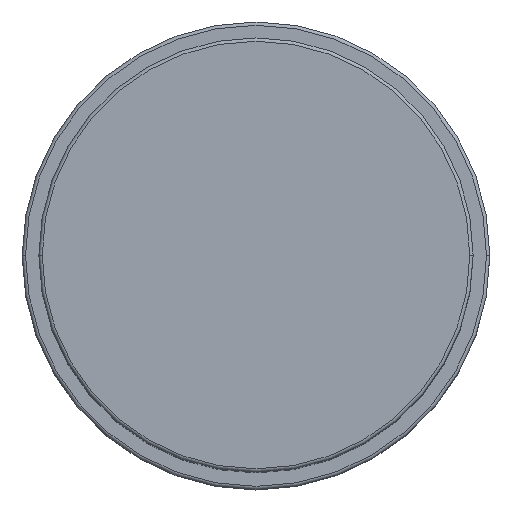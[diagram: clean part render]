
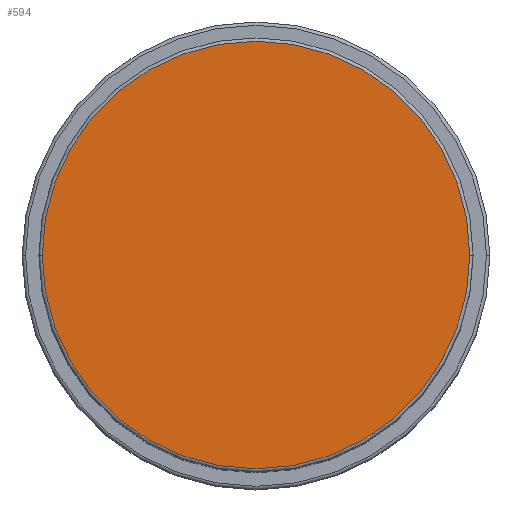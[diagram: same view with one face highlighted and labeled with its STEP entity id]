
A CAD part, top view. The second image highlights one B-rep face of the part: STEP entity #594.
In plain terms, the highlighted planar face has unit normal (0, 0, 1).
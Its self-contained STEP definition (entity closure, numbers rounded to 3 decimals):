
#180 = CARTESIAN_POINT ( 'NONE',  ( 0., 0., 97. ) ) ;
#218 = CARTESIAN_POINT ( 'NONE',  ( 0., 0., 97. ) ) ;
#279 = EDGE_CURVE ( 'NONE', #1268, #1294, #923, .T. ) ;
#319 = CARTESIAN_POINT ( 'NONE',  ( 0., 0., 97. ) ) ;
#424 = AXIS2_PLACEMENT_3D ( 'NONE', #218, #1105, #1114 ) ;
#445 = DIRECTION ( 'NONE',  ( 0., 0., 1. ) ) ;
#447 = DIRECTION ( 'NONE',  ( 1., 0., 0. ) ) ;
#553 = PLANE ( 'NONE',  #838 ) ;
#594 = ADVANCED_FACE ( 'NONE', ( #914 ), #553, .T. ) ;
#838 = AXIS2_PLACEMENT_3D ( 'NONE', #319, #1207, #447 ) ;
#914 = FACE_OUTER_BOUND ( 'NONE', #1297, .T. ) ;
#923 = CIRCLE ( 'NONE', #424, 32. ) ;
#926 = ORIENTED_EDGE ( 'NONE', *, *, #279, .T. ) ;
#1054 = AXIS2_PLACEMENT_3D ( 'NONE', #180, #445, #1322 ) ;
#1105 = DIRECTION ( 'NONE',  ( 0., 0., 1. ) ) ;
#1114 = DIRECTION ( 'NONE',  ( 1., 0., 0. ) ) ;
#1207 = DIRECTION ( 'NONE',  ( 0., 0., 1. ) ) ;
#1233 = CARTESIAN_POINT ( 'NONE',  ( 32., 0., 97. ) ) ;
#1268 = VERTEX_POINT ( 'NONE', #1233 ) ;
#1294 = VERTEX_POINT ( 'NONE', #1656 ) ;
#1297 = EDGE_LOOP ( 'NONE', ( #926, #1591 ) ) ;
#1322 = DIRECTION ( 'NONE',  ( 1., 0., 0. ) ) ;
#1512 = EDGE_CURVE ( 'NONE', #1294, #1268, #1556, .T. ) ;
#1556 = CIRCLE ( 'NONE', #1054, 32. ) ;
#1591 = ORIENTED_EDGE ( 'NONE', *, *, #1512, .T. ) ;
#1656 = CARTESIAN_POINT ( 'NONE',  ( -32., 0., 97. ) ) ;
